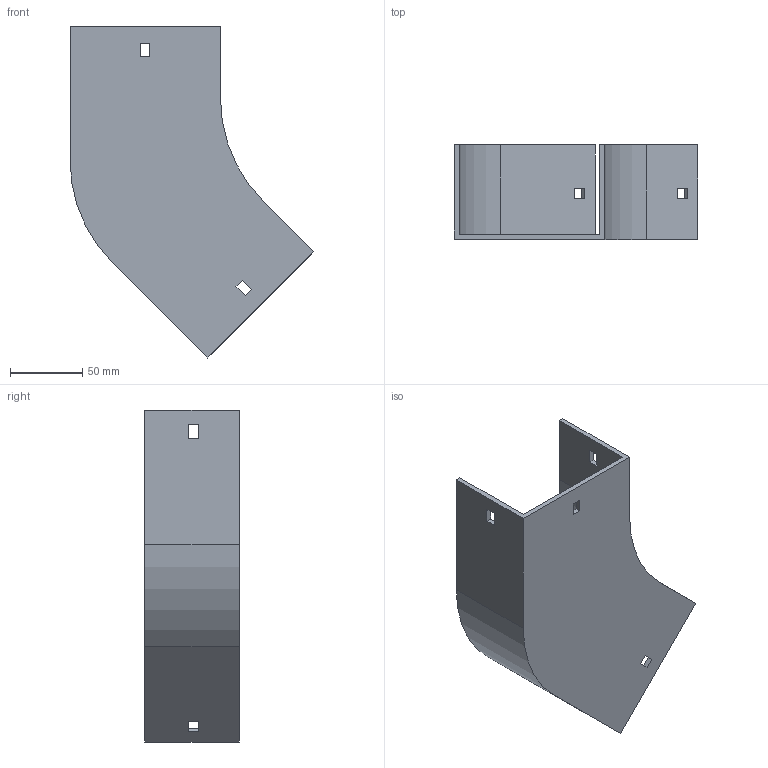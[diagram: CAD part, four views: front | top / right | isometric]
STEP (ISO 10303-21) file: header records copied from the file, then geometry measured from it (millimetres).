
FILE_DESCRIPTION (( 'STEP AP214' ), '1' );
FILE_NAME ('11B1H100.step', '2025-02-21T09:38:04', ( '' ), ( '' ), 'SwSTEP 2.0', 'SolidWorks 2023', '' );
FILE_SCHEMA (( 'AUTOMOTIVE_DESIGN' ));
Length unit declared in the file: millimetre
Products named in the file (1): 11B1H100
Bounding box: 168.64 x 65.5 x 229.61 mm (x, y, z)
Volume: 177027.9 mm3; surface area: 104999.1 mm2
Topology: 1 solids, 1 shells, 42 faces, 120 edges, 80 vertices
Faces by surface type: plane 38, cylinder 4
Entity records: 1399 total; most frequent: CARTESIAN_POINT 243, ORIENTED_EDGE 240, DIRECTION 214, EDGE_CURVE 120, LINE 112, VECTOR 112, VERTEX_POINT 80, EDGE_LOOP 54
